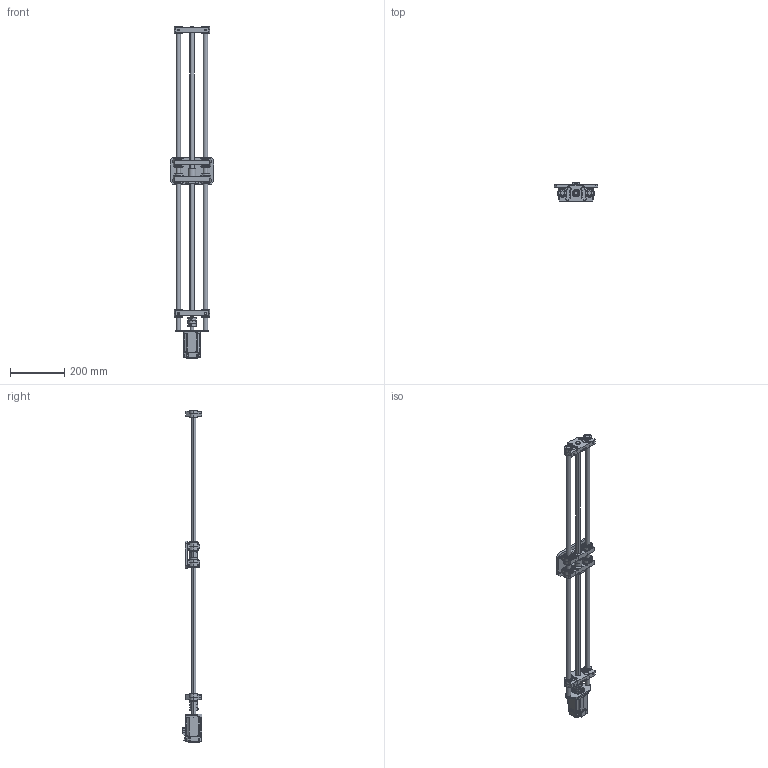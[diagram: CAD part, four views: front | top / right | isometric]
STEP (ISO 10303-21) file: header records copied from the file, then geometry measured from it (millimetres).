
FILE_DESCRIPTION (( 'STEP AP203' ), '1' );
FILE_NAME ('MAF-1610 X 900 - 400W.STEP', '2023-07-04T16:52:34', ( '' ), ( '' ), 'SwSTEP 2.0', 'SolidWorks 2019', '' );
FILE_SCHEMA (( 'CONFIG_CONTROL_DESIGN' ));
Length unit declared in the file: millimetre
Products named in the file (25): SFNU1610; LM16UU.STEP; LM16UU; Pe蓷19; MAF-1610 X 900 - 400W; SV-TH06-0R4G-2-RA0&NA0(400w); DIN 912_M3x12.STEP; Pe蓷3; ACOPLAMENTO ADS-10.STEP; lm16uu.STEP; 04; 03; ADS-10; ELAST_MERO_ADS 10.STEP; Pe蓷2; 01; FLANGE; radial ball bearing_68_din_DIN 625 - 6001 - 10,SI,NC,10_68; CORPO ADS 10.STEP; 02
Assembly tree (31 placements, depth 4):
  MAF-1610 X 900 - 400W
    01
    02
    03
    04
    SFNU1610
    LM16UU
      LM16UU.STEP
        lm16uu.STEP
    LM16UU
      LM16UU.STEP
        lm16uu.STEP
    LM16UU.STEP
      lm16uu.STEP
    LM16UU
      LM16UU.STEP
        lm16uu.STEP
    Pe蓷19  x2
    SV-TH06-0R4G-2-RA0&NA0(400w)
    ADS-10
      ACOPLAMENTO ADS-10.STEP
        CORPO ADS 10.STEP  x2
        ELAST_MERO_ADS 10.STEP
        DIN 912_M3x12.STEP  x2
    FLANGE
    Pe蓷2
    radial ball bearing_68_din_DIN 625 - 6001 - 10,SI,NC,10_68  x2
    Pe蓷3
Bounding box: 160 x 72.5 x 1223.15 mm (x, y, z)
Volume: 1355366.5 mm3; surface area: 450410.2 mm2
Topology: 25 solids, 28 shells, 3828 faces, 9294 edges, 5461 vertices
Faces by surface type: cylinder 1224, plane 1097, torus 633, bspline 496, sphere 197, cone 181
Entity records: 110487 total; most frequent: CARTESIAN_POINT 37748, DIRECTION 15359, ORIENTED_EDGE 14318, EDGE_CURVE 7159, AXIS2_PLACEMENT_3D 6366, VERTEX_POINT 4200, CIRCLE 3545, EDGE_LOOP 3355
